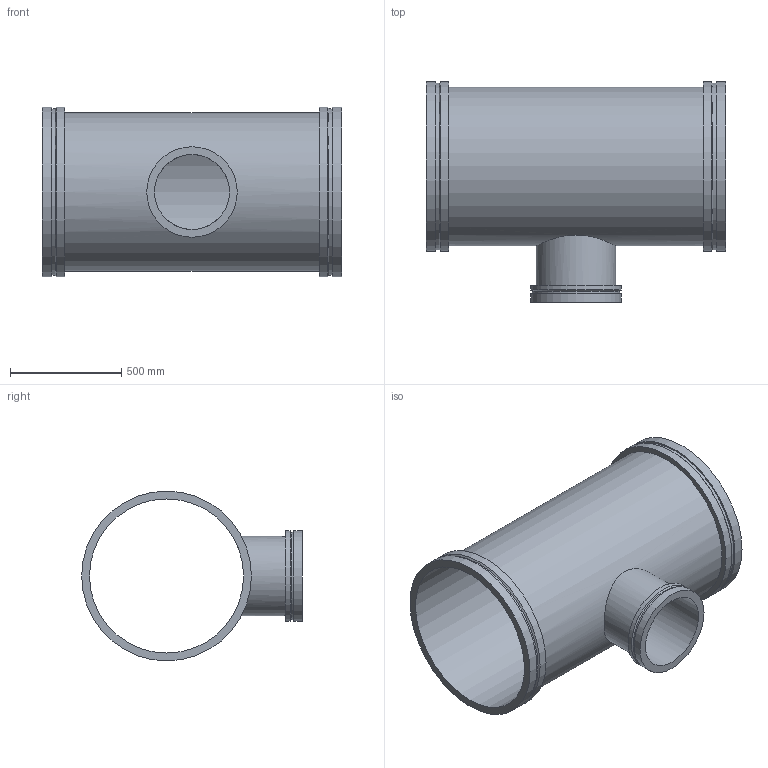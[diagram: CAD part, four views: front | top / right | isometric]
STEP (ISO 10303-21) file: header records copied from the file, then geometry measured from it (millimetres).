
FILE_DESCRIPTION(/* description */ ('VIC REDUCING TEE No W025 VR','CAx-IF Rec.Pracs.---Representation and Presentation of Product Manufacturing Information (PMI)---4.0---2014-10-13'),/* implementation_level */ '2;1');
FILE_NAME(/* name */ 'C:\Users\kkamble\AppData\Roaming\Autodesk\ApplicationPlugins\Back Up\Victaulic_Vic-Ring_Tee Reducing_No W25 VR (AGR)\Victaulic_Vic-Ring_Tee Reducing_No W25 VR (AGR)_28.0x14.0 (700x350).stp',/* time_stamp */ '2020-09-10T11:53:42+05:00',/* author */ ('mchristi'),/* organization */ ('Victaulic'),/* preprocessor_version */ 'ST-DEVELOPER v17.2',/* originating_system */ 'Autodesk Inventor 2019',/* authorisation */ '');
FILE_SCHEMA (('AP242_MANAGED_MODEL_BASED_3D_ENGINEERING_MIM_LF { 1 0 10303 442 1 1 4 }'));
Length unit declared in the file: inch
Products named in the file (1): W25 VR-28.0x14.0
Bounding box: 1346.2 x 990.6 x 762 mm (x, y, z)
Volume: 43830241.3 mm3; surface area: 6804511.9 mm2
Topology: 1 solids, 1 shells, 25 faces, 68 edges, 52 vertices
Faces by surface type: cylinder 13, plane 9, cone 3
Full cylindrical faces by diameter (mm): 336.55 x1, 355.6 x1, 393.7 x1, 406.4 x2, 692.15 x1, 711.2 x1, 747.522 x2, 762 x4
Entity records: 1163 total; most frequent: CARTESIAN_POINT 319, DIRECTION 190, ORIENTED_EDGE 136, AXIS2_PLACEMENT_3D 87, EDGE_CURVE 68, VERTEX_POINT 52, CIRCLE 48, EDGE_LOOP 36
